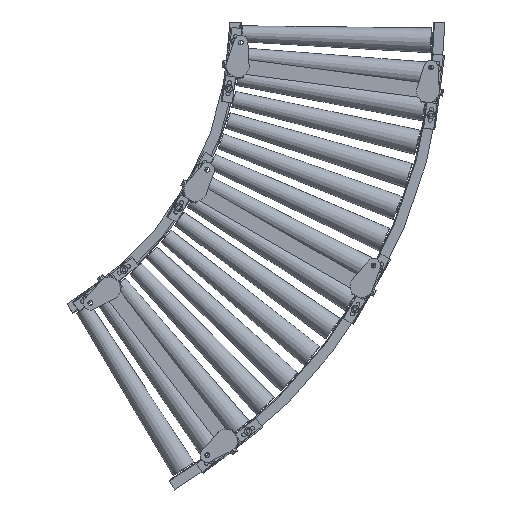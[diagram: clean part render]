
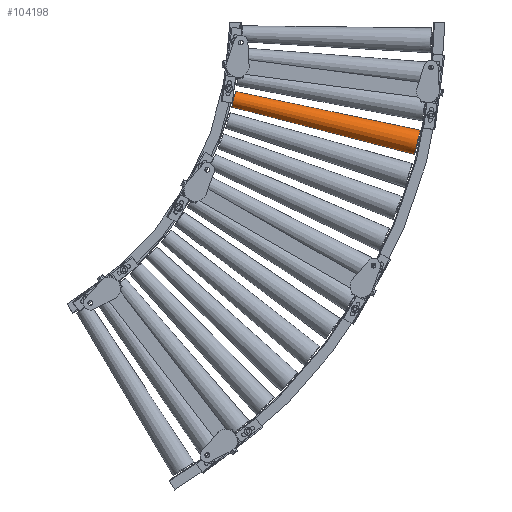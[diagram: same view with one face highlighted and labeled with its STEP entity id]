
A CAD part, front view. The second image highlights one B-rep face of the part: STEP entity #104198.
In plain terms, the highlighted conical face has half-angle 1.35 degrees and reference radius 33.25 mm.
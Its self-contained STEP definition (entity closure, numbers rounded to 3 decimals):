
#764 = EDGE_CURVE ( 'NONE', #61185, #55767, #123528, .T. ) ;
#2176 = VERTEX_POINT ( 'NONE', #71558 ) ;
#4502 = AXIS2_PLACEMENT_3D ( 'NONE', #95922, #96437, #119854 ) ;
#16877 = CARTESIAN_POINT ( 'NONE',  ( 1371.939, -33.241, -321.785 ) ) ;
#19016 = CARTESIAN_POINT ( 'NONE',  ( 885.43, -21.344, -185.746 ) ) ;
#30386 = CARTESIAN_POINT ( 'NONE',  ( 880.555, -21.344, -206.532 ) ) ;
#32095 = ORIENTED_EDGE ( 'NONE', *, *, #140538, .T. ) ;
#38077 = EDGE_CURVE ( 'NONE', #41082, #55767, #91931, .T. ) ;
#41082 = VERTEX_POINT ( 'NONE', #53051 ) ;
#51892 = CARTESIAN_POINT ( 'NONE',  ( 1379.532, -33.241, -289.414 ) ) ;
#53051 = CARTESIAN_POINT ( 'NONE',  ( 1364.347, -33.241, -354.157 ) ) ;
#55767 = VERTEX_POINT ( 'NONE', #51892 ) ;
#58614 = ORIENTED_EDGE ( 'NONE', *, *, #764, .F. ) ;
#58929 = AXIS2_PLACEMENT_3D ( 'NONE', #16877, #109394, #75954 ) ;
#61185 = VERTEX_POINT ( 'NONE', #19016 ) ;
#67907 = EDGE_CURVE ( 'NONE', #2176, #61185, #74508, .T. ) ;
#70241 = CARTESIAN_POINT ( 'NONE',  ( 1364.347, -33.241, -354.157 ) ) ;
#71558 = CARTESIAN_POINT ( 'NONE',  ( 875.68, -21.344, -227.318 ) ) ;
#74508 = CIRCLE ( 'NONE', #91189, 21.35 ) ;
#75954 = DIRECTION ( 'NONE',  ( -0.228, 0., -0.974 ) ) ;
#81737 = DIRECTION ( 'NONE',  ( 0.968, -0.024, -0.251 ) ) ;
#89614 = VECTOR ( 'NONE', #91473, 1000. ) ;
#91189 = AXIS2_PLACEMENT_3D ( 'NONE', #30386, #131914, #108402 ) ;
#91473 = DIRECTION ( 'NONE',  ( 0.978, -0.024, -0.205 ) ) ;
#91931 = CIRCLE ( 'NONE', #4502, 33.25 ) ;
#95922 = CARTESIAN_POINT ( 'NONE',  ( 1371.939, -33.241, -321.785 ) ) ;
#96437 = DIRECTION ( 'NONE',  ( -0.973, 0.024, 0.228 ) ) ;
#104198 = ADVANCED_FACE ( 'NONE', ( #128402 ), #105094, .T. ) ;
#104618 = VECTOR ( 'NONE', #81737, 1000. ) ;
#105094 = CONICAL_SURFACE ( 'NONE', #58929, 33.25, 0.024 ) ;
#105328 = ORIENTED_EDGE ( 'NONE', *, *, #67907, .F. ) ;
#108402 = DIRECTION ( 'NONE',  ( 0.228, 0., 0.974 ) ) ;
#109394 = DIRECTION ( 'NONE',  ( 0.973, -0.024, -0.228 ) ) ;
#119854 = DIRECTION ( 'NONE',  ( 0.228, 0., 0.974 ) ) ;
#123528 = LINE ( 'NONE', #147353, #89614 ) ;
#128402 = FACE_OUTER_BOUND ( 'NONE', #139453, .T. ) ;
#131420 = LINE ( 'NONE', #70241, #104618 ) ;
#131914 = DIRECTION ( 'NONE',  ( -0.973, 0.024, 0.228 ) ) ;
#132027 = ORIENTED_EDGE ( 'NONE', *, *, #38077, .T. ) ;
#139453 = EDGE_LOOP ( 'NONE', ( #58614, #105328, #32095, #132027 ) ) ;
#140538 = EDGE_CURVE ( 'NONE', #2176, #41082, #131420, .T. ) ;
#147353 = CARTESIAN_POINT ( 'NONE',  ( 1379.532, -33.241, -289.414 ) ) ;
